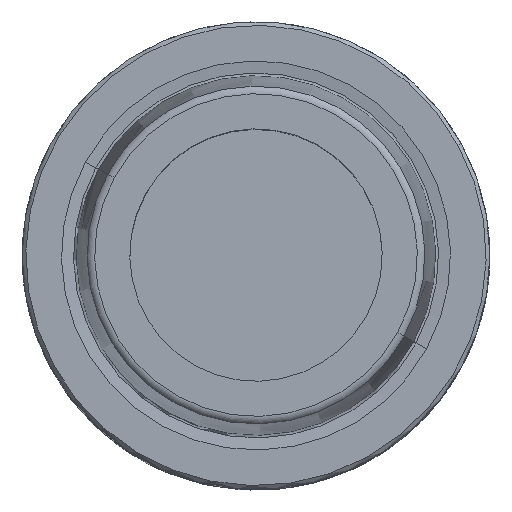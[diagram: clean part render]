
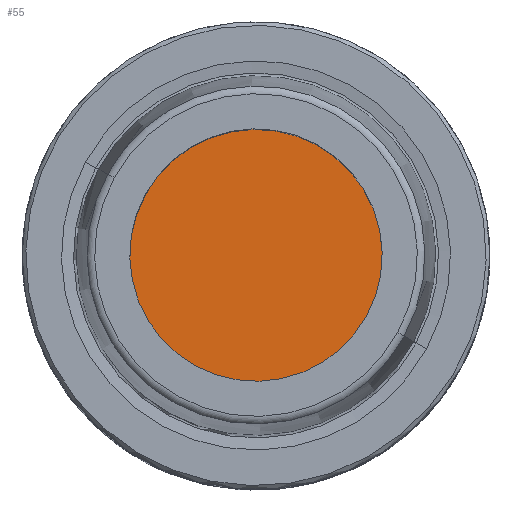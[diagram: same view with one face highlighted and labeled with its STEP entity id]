
A CAD part, top view. The second image highlights one B-rep face of the part: STEP entity #55.
In plain terms, the highlighted planar face has unit normal (0, 0, 1).
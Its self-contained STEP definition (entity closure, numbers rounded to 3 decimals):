
#35=AXIS2_PLACEMENT_3D('Plane Axis2P3D',#32,#33,#34) ;
#39=AXIS2_PLACEMENT_3D('Circle Axis2P3D',#37,#38,$) ;
#48=AXIS2_PLACEMENT_3D('Circle Axis2P3D',#46,#47,$) ;
#32=CARTESIAN_POINT('Axis2P3D Location',(-15.75,0.,-10.)) ;
#37=CARTESIAN_POINT('Axis2P3D Location',(0.,0.,-10.)) ;
#41=CARTESIAN_POINT('Vertex',(14.919,-8.15,-10.)) ;
#43=CARTESIAN_POINT('Vertex',(-14.919,8.15,-10.)) ;
#46=CARTESIAN_POINT('Axis2P3D Location',(0.,0.,-10.)) ;
#33=DIRECTION('Axis2P3D Direction',(0.,0.,-1.)) ;
#34=DIRECTION('Axis2P3D XDirection',(0.,1.,0.)) ;
#38=DIRECTION('Axis2P3D Direction',(0.,0.,-1.)) ;
#47=DIRECTION('Axis2P3D Direction',(0.,0.,-1.)) ;
#52=ORIENTED_EDGE('',*,*,#45,.F.) ;
#53=ORIENTED_EDGE('',*,*,#50,.F.) ;
#55=ADVANCED_FACE('NO_CUT',(#54),#36,.F.) ;
#40=CIRCLE('generated circle',#39,17.) ;
#49=CIRCLE('generated circle',#48,17.) ;
#45=EDGE_CURVE('',#42,#44,#40,.T.) ;
#50=EDGE_CURVE('',#44,#42,#49,.T.) ;
#51=EDGE_LOOP('',(#52,#53)) ;
#54=FACE_OUTER_BOUND('',#51,.T.) ;
#36=PLANE('',#35) ;
#42=VERTEX_POINT('',#41) ;
#44=VERTEX_POINT('',#43) ;
